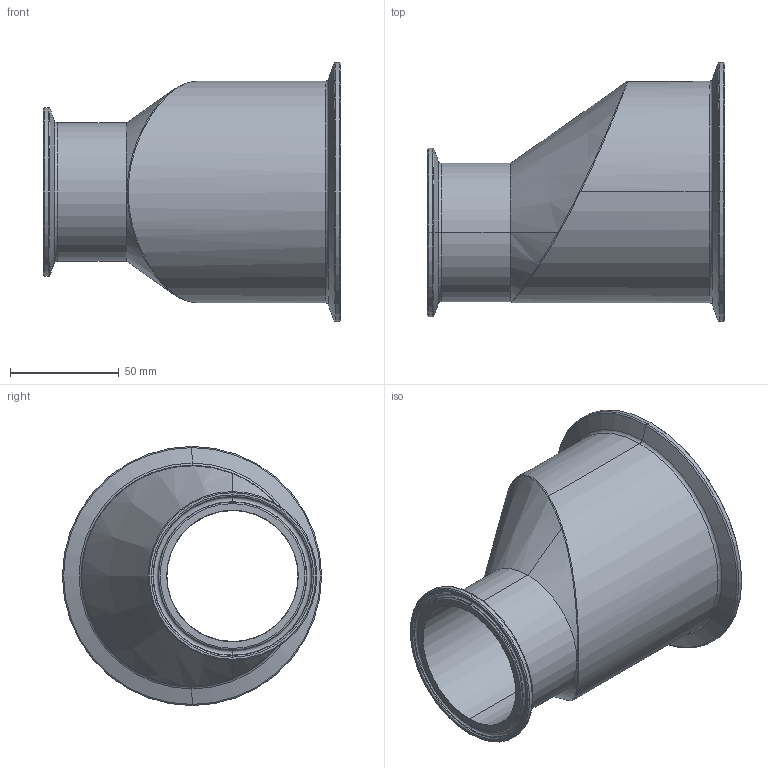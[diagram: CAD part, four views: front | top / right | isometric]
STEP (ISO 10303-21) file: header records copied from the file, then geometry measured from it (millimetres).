
FILE_DESCRIPTION (( 'STEP AP214' ), '1' );
FILE_NAME ('TEG32SCC6L4.0x2.5-...STEP', '2016-06-01T13:12:25', ( 'eran' ), ( '' ), 'SwSTEP 2.0', 'SolidWorks 2016', '' );
FILE_SCHEMA (( 'AUTOMOTIVE_DESIGN' ));
Length unit declared in the file: millimetre
Products named in the file (1): TEG32SCC6L4.0x2.5-..
Bounding box: 136.53 x 119 x 119 mm (x, y, z)
Volume: 295942.8 mm3; surface area: 78727.5 mm2
Topology: 1 solids, 1 shells, 68 faces, 145 edges, 79 vertices
Faces by surface type: torus 25, cone 23, cylinder 12, bspline 4, plane 4
Entity records: 2710 total; most frequent: CARTESIAN_POINT 1206, DIRECTION 348, ORIENTED_EDGE 286, AXIS2_PLACEMENT_3D 157, EDGE_CURVE 143, CIRCLE 92, VERTEX_POINT 79, EDGE_LOOP 72
